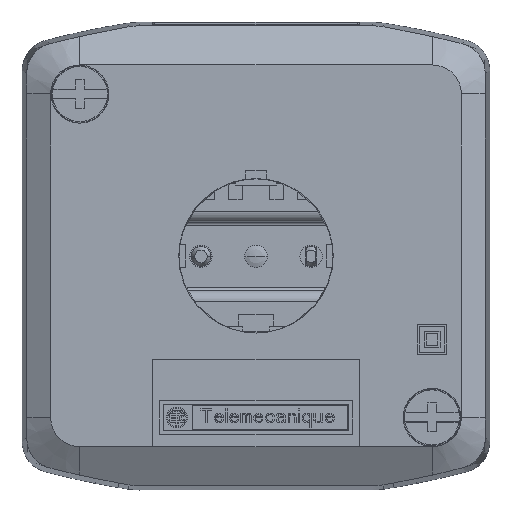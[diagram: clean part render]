
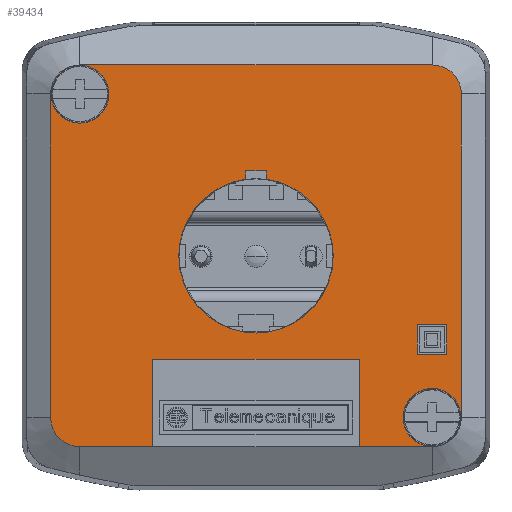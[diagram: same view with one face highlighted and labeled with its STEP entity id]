
A CAD part, top view. The second image highlights one B-rep face of the part: STEP entity #39434.
In plain terms, the highlighted planar face has unit normal (0, 0, 1) as drawn and (0, 1, 0) by its records, which use the part's own axes.
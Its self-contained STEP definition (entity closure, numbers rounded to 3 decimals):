
#9438=CARTESIAN_POINT('',(-25.6,0.,-23.5));
#9439=DIRECTION('',(0.,-1.,0.));
#9440=DIRECTION('',(-1.,0.,0.));
#9441=AXIS2_PLACEMENT_3D('',#9438,#9439,#9440);
#9443=CARTESIAN_POINT('',(-25.6,0.,-23.5));
#9444=DIRECTION('',(0.,-1.,0.));
#9445=DIRECTION('',(1.,0.,0.));
#9446=AXIS2_PLACEMENT_3D('',#9443,#9444,#9445);
#9448=CARTESIAN_POINT('',(25.6,0.,23.5));
#9449=DIRECTION('',(0.,-1.,0.));
#9450=DIRECTION('',(-1.,0.,0.));
#9451=AXIS2_PLACEMENT_3D('',#9448,#9449,#9450);
#9453=CARTESIAN_POINT('',(25.6,0.,23.5));
#9454=DIRECTION('',(0.,-1.,0.));
#9455=DIRECTION('',(1.,0.,0.));
#9456=AXIS2_PLACEMENT_3D('',#9453,#9454,#9455);
#9458=DIRECTION('',(-1.,0.,0.));
#9459=VECTOR('',#9458,3.);
#9460=CARTESIAN_POINT('',(1.5,0.,12.35));
#9461=LINE('',#9460,#9459);
#9462=DIRECTION('',(0.,0.,1.));
#9463=VECTOR('',#9462,1.23);
#9464=CARTESIAN_POINT('',(1.5,0.,11.12));
#9465=LINE('',#9464,#9463);
#9466=CARTESIAN_POINT('',(0.,0.,0.));
#9467=DIRECTION('',(0.,-1.,0.));
#9468=DIRECTION('',(1.,0.,0.));
#9469=AXIS2_PLACEMENT_3D('',#9466,#9467,#9468);
#9471=CARTESIAN_POINT('',(0.,0.,0.));
#9472=DIRECTION('',(0.,-1.,0.));
#9473=DIRECTION('',(-1.,0.,0.));
#9474=AXIS2_PLACEMENT_3D('',#9471,#9472,#9473);
#9476=CARTESIAN_POINT('',(0.,0.,0.));
#9477=DIRECTION('',(0.,-1.,0.));
#9478=DIRECTION('',(-0.134,0.,0.991));
#9479=AXIS2_PLACEMENT_3D('',#9476,#9477,#9478);
#9481=DIRECTION('',(0.,0.,-1.));
#9482=VECTOR('',#9481,1.23);
#9483=CARTESIAN_POINT('',(-1.5,0.,12.35));
#9484=LINE('',#9483,#9482);
#9485=DIRECTION('',(0.,0.,1.));
#9486=VECTOR('',#9485,12.75);
#9487=CARTESIAN_POINT('',(-15.,0.,-27.75));
#9488=LINE('',#9487,#9486);
#9489=DIRECTION('',(1.,0.,0.));
#9490=VECTOR('',#9489,30.);
#9491=CARTESIAN_POINT('',(-15.,0.,-15.));
#9492=LINE('',#9491,#9490);
#9493=DIRECTION('',(0.,0.,1.));
#9494=VECTOR('',#9493,12.75);
#9495=CARTESIAN_POINT('',(15.,0.,-27.75));
#9496=LINE('',#9495,#9494);
#9497=DIRECTION('',(1.,0.,0.));
#9498=VECTOR('',#9497,10.65);
#9499=CARTESIAN_POINT('',(15.,0.,-27.75));
#9500=LINE('',#9499,#9498);
#9501=CARTESIAN_POINT('',(25.65,0.,-23.55));
#9502=DIRECTION('',(0.,-1.,0.));
#9503=DIRECTION('',(0.,0.,-1.));
#9504=AXIS2_PLACEMENT_3D('',#9501,#9502,#9503);
#9506=DIRECTION('',(0.,0.,1.));
#9507=VECTOR('',#9506,47.1);
#9508=CARTESIAN_POINT('',(29.85,0.,-23.55));
#9509=LINE('',#9508,#9507);
#9510=CARTESIAN_POINT('',(25.65,0.,23.55));
#9511=DIRECTION('',(0.,-1.,0.));
#9512=DIRECTION('',(1.,0.,0.));
#9513=AXIS2_PLACEMENT_3D('',#9510,#9511,#9512);
#9515=DIRECTION('',(-1.,0.,0.));
#9516=VECTOR('',#9515,51.3);
#9517=CARTESIAN_POINT('',(25.65,0.,27.75));
#9518=LINE('',#9517,#9516);
#9519=CARTESIAN_POINT('',(-25.65,0.,23.55));
#9520=DIRECTION('',(0.,-1.,0.));
#9521=DIRECTION('',(0.,0.,1.));
#9522=AXIS2_PLACEMENT_3D('',#9519,#9520,#9521);
#9524=DIRECTION('',(0.,0.,-1.));
#9525=VECTOR('',#9524,47.1);
#9526=CARTESIAN_POINT('',(-29.85,0.,23.55));
#9527=LINE('',#9526,#9525);
#9528=CARTESIAN_POINT('',(-25.65,0.,-23.55));
#9529=DIRECTION('',(0.,-1.,0.));
#9530=DIRECTION('',(-1.,0.,0.));
#9531=AXIS2_PLACEMENT_3D('',#9528,#9529,#9530);
#9533=DIRECTION('',(1.,0.,0.));
#9534=VECTOR('',#9533,10.65);
#9535=CARTESIAN_POINT('',(-25.65,0.,-27.75));
#9536=LINE('',#9535,#9534);
#9537=DIRECTION('',(0.,0.,-1.));
#9538=VECTOR('',#9537,4.3);
#9539=CARTESIAN_POINT('',(-27.75,0.,-10.));
#9540=LINE('',#9539,#9538);
#9541=DIRECTION('',(-1.,0.,0.));
#9542=VECTOR('',#9541,4.3);
#9543=CARTESIAN_POINT('',(-23.45,0.,-10.));
#9544=LINE('',#9543,#9542);
#9545=DIRECTION('',(0.,0.,1.));
#9546=VECTOR('',#9545,4.3);
#9547=CARTESIAN_POINT('',(-23.45,0.,-14.3));
#9548=LINE('',#9547,#9546);
#9549=DIRECTION('',(1.,0.,0.));
#9550=VECTOR('',#9549,4.3);
#9551=CARTESIAN_POINT('',(-27.75,0.,-14.3));
#9552=LINE('',#9551,#9550);
#21131=CARTESIAN_POINT('',(-15.,0.,-27.75));
#21132=VERTEX_POINT('',#21131);
#21133=CARTESIAN_POINT('',(-15.,0.,-15.));
#21134=VERTEX_POINT('',#21133);
#21135=CARTESIAN_POINT('',(15.,0.,-15.));
#21136=VERTEX_POINT('',#21135);
#21137=CARTESIAN_POINT('',(15.,0.,-27.75));
#21138=VERTEX_POINT('',#21137);
#21199=CARTESIAN_POINT('',(1.5,0.,12.35));
#21200=VERTEX_POINT('',#21199);
#21201=CARTESIAN_POINT('',(-1.5,0.,12.35));
#21202=VERTEX_POINT('',#21201);
#21595=CARTESIAN_POINT('',(-27.75,0.,-10.));
#21596=VERTEX_POINT('',#21595);
#21597=CARTESIAN_POINT('',(-27.75,0.,-14.3));
#21598=VERTEX_POINT('',#21597);
#21599=CARTESIAN_POINT('',(-23.45,0.,-14.3));
#21600=VERTEX_POINT('',#21599);
#21601=CARTESIAN_POINT('',(-23.45,0.,-10.));
#21602=VERTEX_POINT('',#21601);
#21723=CARTESIAN_POINT('',(-29.811,0.,-23.5));
#21724=VERTEX_POINT('',#21723);
#21725=CARTESIAN_POINT('',(-21.389,0.,-23.5));
#21726=VERTEX_POINT('',#21725);
#21731=CARTESIAN_POINT('',(21.389,0.,23.5));
#21732=VERTEX_POINT('',#21731);
#21733=CARTESIAN_POINT('',(29.811,0.,23.5));
#21734=VERTEX_POINT('',#21733);
#21757=CARTESIAN_POINT('',(11.221,0.,0.));
#21759=VERTEX_POINT('',#21757);
#21761=CARTESIAN_POINT('',(-11.221,0.,0.));
#21763=VERTEX_POINT('',#21761);
#21773=CARTESIAN_POINT('',(-1.5,0.,11.12));
#21774=VERTEX_POINT('',#21773);
#21775=CARTESIAN_POINT('',(1.5,0.,11.12));
#21776=VERTEX_POINT('',#21775);
#23453=CARTESIAN_POINT('',(-25.65,0.,27.75));
#23455=VERTEX_POINT('',#23453);
#23457=CARTESIAN_POINT('',(-29.85,0.,23.55));
#23459=VERTEX_POINT('',#23457);
#23461=CARTESIAN_POINT('',(-29.85,0.,-23.55));
#23463=VERTEX_POINT('',#23461);
#23465=CARTESIAN_POINT('',(-25.65,0.,-27.75));
#23467=VERTEX_POINT('',#23465);
#23469=CARTESIAN_POINT('',(25.65,0.,-27.75));
#23471=VERTEX_POINT('',#23469);
#23473=CARTESIAN_POINT('',(29.85,0.,-23.55));
#23475=VERTEX_POINT('',#23473);
#23477=CARTESIAN_POINT('',(29.85,0.,23.55));
#23479=VERTEX_POINT('',#23477);
#23481=CARTESIAN_POINT('',(25.65,0.,27.75));
#23483=VERTEX_POINT('',#23481);
#39372=CARTESIAN_POINT('',(0.,0.,0.));
#39373=DIRECTION('',(0.,1.,0.));
#39374=DIRECTION('',(0.,0.,1.));
#39375=AXIS2_PLACEMENT_3D('',#39372,#39373,#39374);
#39376=PLANE('',#39375);
#39377=ORIENTED_EDGE('',*,*,#39316,.T.);
#39378=ORIENTED_EDGE('',*,*,#39367,.T.);
#39379=ORIENTED_EDGE('',*,*,#39354,.F.);
#39380=ORIENTED_EDGE('',*,*,#39286,.T.);
#39382=ORIENTED_EDGE('',*,*,#39381,.T.);
#39384=ORIENTED_EDGE('',*,*,#39383,.T.);
#39386=ORIENTED_EDGE('',*,*,#39385,.T.);
#39388=ORIENTED_EDGE('',*,*,#39387,.T.);
#39390=ORIENTED_EDGE('',*,*,#39389,.T.);
#39392=ORIENTED_EDGE('',*,*,#39391,.T.);
#39394=ORIENTED_EDGE('',*,*,#39393,.T.);
#39395=ORIENTED_EDGE('',*,*,#39271,.T.);
#39396=EDGE_LOOP('',(#39377,#39378,#39379,#39380,#39382,#39384,#39386,#39388,
#39390,#39392,#39394,#39395));
#39397=FACE_OUTER_BOUND('',#39396,.F.);
#39399=ORIENTED_EDGE('',*,*,#39398,.F.);
#39401=ORIENTED_EDGE('',*,*,#39400,.F.);
#39402=EDGE_LOOP('',(#39399,#39401));
#39403=FACE_BOUND('',#39402,.F.);
#39405=ORIENTED_EDGE('',*,*,#39404,.F.);
#39407=ORIENTED_EDGE('',*,*,#39406,.F.);
#39408=EDGE_LOOP('',(#39405,#39407));
#39409=FACE_BOUND('',#39408,.F.);
#39411=ORIENTED_EDGE('',*,*,#39410,.F.);
#39413=ORIENTED_EDGE('',*,*,#39412,.F.);
#39415=ORIENTED_EDGE('',*,*,#39414,.F.);
#39417=ORIENTED_EDGE('',*,*,#39416,.F.);
#39419=ORIENTED_EDGE('',*,*,#39418,.F.);
#39421=ORIENTED_EDGE('',*,*,#39420,.F.);
#39422=EDGE_LOOP('',(#39411,#39413,#39415,#39417,#39419,#39421));
#39423=FACE_BOUND('',#39422,.F.);
#39425=ORIENTED_EDGE('',*,*,#39424,.F.);
#39427=ORIENTED_EDGE('',*,*,#39426,.F.);
#39429=ORIENTED_EDGE('',*,*,#39428,.F.);
#39431=ORIENTED_EDGE('',*,*,#39430,.F.);
#39432=EDGE_LOOP('',(#39425,#39427,#39429,#39431));
#39433=FACE_BOUND('',#39432,.F.);
#39434=ADVANCED_FACE('',(#39397,#39403,#39409,#39423,#39433),#39376,.T.);
#9442=CIRCLE('',#9441,4.211);
#9447=CIRCLE('',#9446,4.211);
#9452=CIRCLE('',#9451,4.211);
#9457=CIRCLE('',#9456,4.211);
#9470=CIRCLE('',#9469,11.221);
#9475=CIRCLE('',#9474,11.221);
#9480=CIRCLE('',#9479,11.221);
#9505=CIRCLE('',#9504,4.2);
#9514=CIRCLE('',#9513,4.2);
#9523=CIRCLE('',#9522,4.2);
#9532=CIRCLE('',#9531,4.2);
#39271=EDGE_CURVE('',#23467,#21132,#9536,.T.);
#39286=EDGE_CURVE('',#21138,#23471,#9500,.T.);
#39316=EDGE_CURVE('',#21132,#21134,#9488,.T.);
#39354=EDGE_CURVE('',#21138,#21136,#9496,.T.);
#39367=EDGE_CURVE('',#21134,#21136,#9492,.T.);
#39381=EDGE_CURVE('',#23471,#23475,#9505,.T.);
#39383=EDGE_CURVE('',#23475,#23479,#9509,.T.);
#39385=EDGE_CURVE('',#23479,#23483,#9514,.T.);
#39387=EDGE_CURVE('',#23483,#23455,#9518,.T.);
#39389=EDGE_CURVE('',#23455,#23459,#9523,.T.);
#39391=EDGE_CURVE('',#23459,#23463,#9527,.T.);
#39393=EDGE_CURVE('',#23463,#23467,#9532,.T.);
#39398=EDGE_CURVE('',#21724,#21726,#9442,.T.);
#39400=EDGE_CURVE('',#21726,#21724,#9447,.T.);
#39404=EDGE_CURVE('',#21732,#21734,#9452,.T.);
#39406=EDGE_CURVE('',#21734,#21732,#9457,.T.);
#39410=EDGE_CURVE('',#21200,#21202,#9461,.T.);
#39412=EDGE_CURVE('',#21776,#21200,#9465,.T.);
#39414=EDGE_CURVE('',#21759,#21776,#9470,.T.);
#39416=EDGE_CURVE('',#21763,#21759,#9475,.T.);
#39418=EDGE_CURVE('',#21774,#21763,#9480,.T.);
#39420=EDGE_CURVE('',#21202,#21774,#9484,.T.);
#39424=EDGE_CURVE('',#21596,#21598,#9540,.T.);
#39426=EDGE_CURVE('',#21602,#21596,#9544,.T.);
#39428=EDGE_CURVE('',#21600,#21602,#9548,.T.);
#39430=EDGE_CURVE('',#21598,#21600,#9552,.T.);
